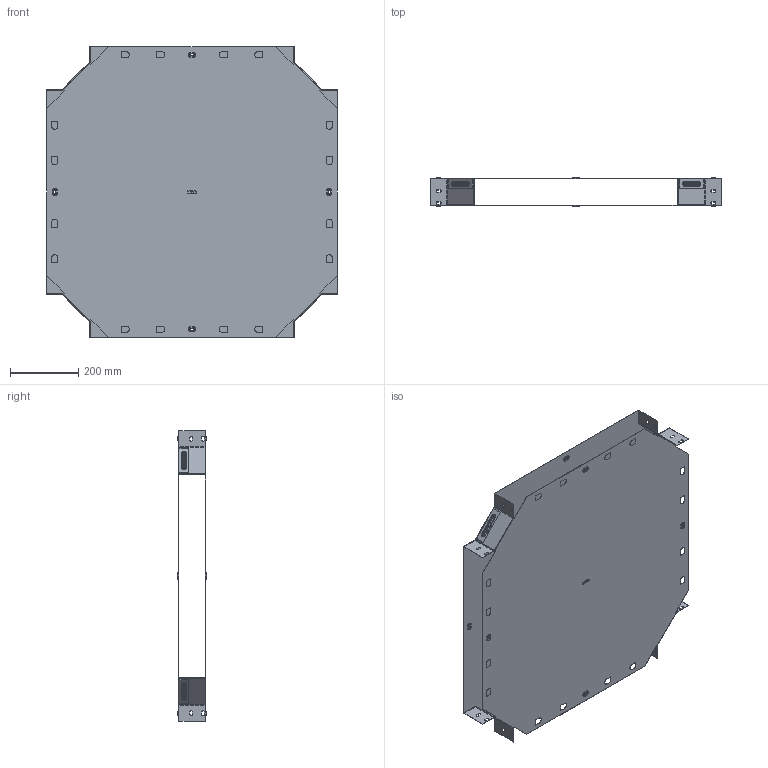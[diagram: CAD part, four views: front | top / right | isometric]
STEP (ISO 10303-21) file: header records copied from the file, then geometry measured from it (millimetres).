
FILE_DESCRIPTION (( 'STEP AP214' ), '1' );
FILE_NAME ('x8060008_捘.STEP', '2019-06-10T07:51:44', ( '砐錪賧瘔蠈錪 Windows' ), ( '' ), 'SwSTEP 2.0', 'SolidWorks 2018', '' );
FILE_SCHEMA (( 'AUTOMOTIVE_DESIGN' ));
Length unit declared in the file: millimetre
Products named in the file (1): x8060008_捘
Bounding box: 855.01 x 83.8 x 855.01 mm (x, y, z)
Volume: 1131249.7 mm3; surface area: 2836926.8 mm2
Topology: 2 solids, 2 shells, 1016 faces, 3000 edges, 1952 vertices
Faces by surface type: plane 534, cylinder 336, torus 128, bspline 18
Entity records: 35031 total; most frequent: CARTESIAN_POINT 6927, ORIENTED_EDGE 6000, DIRECTION 5826, EDGE_CURVE 3000, VECTOR 2100, LINE 2100, VERTEX_POINT 1952, AXIS2_PLACEMENT_3D 1863
